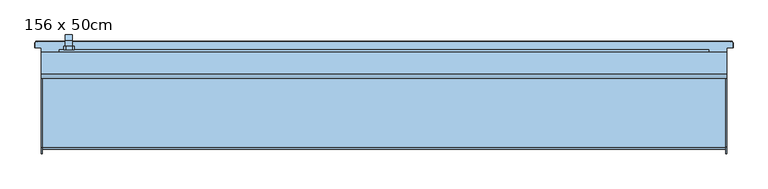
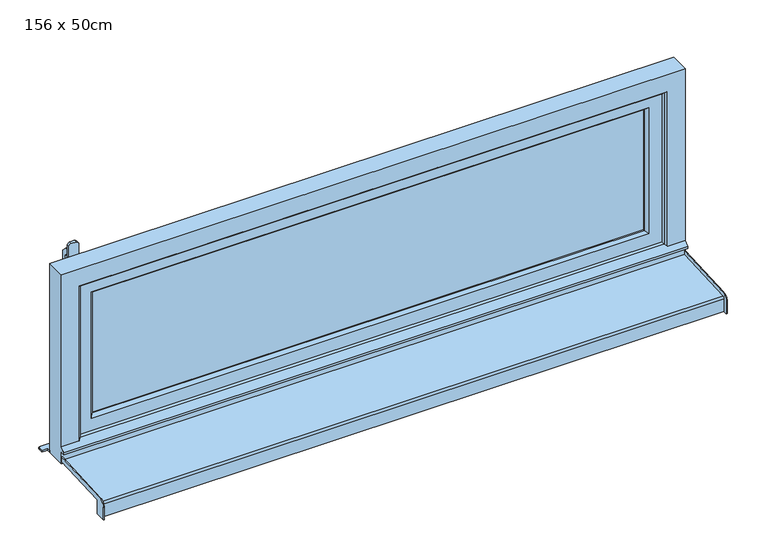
"""IFC4 building model written with IfcOpenShell, lengths in millimetres: window geometry, Fenêtre type 1 : 156 x 50cm."""

from ifc_helpers import new_model, si_unit, frame, origin, place, context, project, spatial, polyline, circle_curve, outline, extrude, faceted_brep, source, transform, mapped, element, save
from ifc_brep_helpers import plane_surface, cylinder_surface, revolved_surface, advanced_brep


def window_156_x_50cm_3dce97cc(model_context):
    return source(origin(), model_context, "Body", "SolidModel", [
        faceted_brep([(-725.5, 103.0, 1306.0), (-725.5, 103.0, 1294.0), (-709.5, 103.0, 1294.0), (-709.5, 103.0, 1306.0), (-709.5, 115.4852814, 1306.0), (-725.5, 115.4852814, 1306.0), (-709.5, 110.5147186, 1294.0), (-709.5, 117.0, 1287.5147186), (-709.5, 117.0, 1287.2282668), (-709.5, 119.7580139, 1208.5355339), (-709.5, 129.0, 1208.5355339), (-709.5, 129.0, 1292.4852814), (-725.5, 110.5147186, 1294.0), (-725.5, 129.0, 1292.4852814), (-725.5, 129.0, 1208.5355339), (-725.5, 119.7580139, 1208.5355339), (-725.5, 117.0099909, 1287.2286157), (-725.5, 117.0, 1287.5147186), (-713.0355339, 129.0, 1205.0), (-713.0355339, 119.8814775, 1205.0), (-721.9644661, 119.8814775, 1205.0), (-721.9644661, 129.0, 1205.0)], [[[0, 1, 2, 3]], [[3, 4, 5, 0]], [[2, 6, 7, 8, 9, 10, 11, 4, 3]], [[1, 12, 6, 2]], [[0, 5, 13, 14, 15, 16, 17, 12, 1]], [[4, 11, 13, 5]], [[6, 12, 17, 7]], [[18, 19, 20, 21]], [[11, 10, 18, 21, 14, 13]], [[17, 16, 8, 7]], [[16, 15, 20, 19, 9, 8]], [[9, 19, 18, 10]], [[14, 21, 20, 15]]]),
        extrude(outline(polyline([(1330.0, -724.5), (1325.0, -729.5), (1275.0, -729.5), (1270.0, -724.5), (1270.0, -710.5), (1275.0, -705.5), (1325.0, -705.5), (1330.0, -710.5), (1330.0, -724.5)])), frame((0.0, 95.0, 0.0), z_axis=(0.0, 1.0, 0.0), x_axis=(0.0, 0.0, 1.0)), (0.0, 0.0, 1.0), 8.0),
        advanced_brep(
        [(-780.0, -115.0, 762.0), (-780.0, -141.5, 762.0), (-780.0, -141.5, 795.1063906), (-780.0, -127.2850393, 810.0858337), (-780.0, 40.0, 818.8528711), (-780.0, 40.0, 807.3370891), (-780.0, -115.0, 799.2138833), (780.0, -115.0, 799.2138833), (780.0, 40.0, 807.3370891), (780.0, 40.0, 818.8528711), (780.0, -127.2850393, 810.0858337), (780.0, -141.5, 795.1063906), (780.0, -141.5, 762.0), (780.0, -115.0, 762.0), (-778.0, 40.0, 818.8528711), (-778.0, 40.0, 808.8391476), (778.0, 40.0, 808.8391476), (778.0, 40.0, 818.8528711), (-778.0, -126.7616798, 800.0995383), (778.0, -126.7616798, 800.0995383), (778.0, -131.5, 795.1063906), (-778.0, -131.5, 795.1063906), (-778.0, -131.5, 762.0), (778.0, -131.5, 762.0), (-778.0, -130.0, 762.0), (778.0, -130.0, 762.0), (778.0, -115.0, 762.0), (778.0, -141.5, 762.0), (-778.0, -141.5, 762.0), (-778.0, -115.0, 762.0), (-778.0, -120.0, 772.0), (778.0, -120.0, 772.0), (-778.0, -121.0606602, 773.0606602), (778.0, -121.0606602, 773.0606602), (-778.0, -130.0, 764.1213203), (778.0, -130.0, 764.1213203), (-778.0, -130.0, 795.0728058), (778.0, -130.0, 795.0728058), (-778.0, -115.0, 799.2138833), (778.0, -115.0, 799.2138833), (778.0, -126.649637, 798.6033517), (-778.0, -126.649637, 798.6033517), (778.0, -141.5, 795.1063906), (778.0, -127.2850393, 810.0858337), (-778.0, -127.2850393, 810.0858337), (-778.0, -141.5, 795.1063906)],
        [
            (0, 1),
            (1, 2),
            (2, 3, circle_curve(frame((-780.0, -126.5, 795.1063906), z_axis=(-1.0, 0.0, 0.0), x_axis=(0.0, -0.05233595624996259, 0.998629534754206)), 15.0)),
            (3, 4),
            (4, 5),
            (5, 6),
            (6, 0),
            (7, 8),
            (8, 9),
            (9, 10),
            (10, 11, circle_curve(frame((780.0, -126.5, 795.1063906), z_axis=(1.0, 0.0, 0.0), x_axis=(0.0, -1.0, 0.0)), 15.0)),
            (11, 12),
            (12, 13),
            (13, 7),
            (14, 15),
            (15, 16),
            (16, 17),
            (17, 9),
            (8, 5),
            (4, 14),
            (18, 19),
            (19, 16),
            (15, 18),
            (20, 21),
            (21, 22),
            (22, 23),
            (23, 20),
            (24, 25),
            (25, 26),
            (26, 13),
            (12, 27),
            (27, 23),
            (22, 28),
            (28, 1),
            (0, 29),
            (29, 24),
            (30, 31),
            (31, 25),
            (24, 30),
            (32, 33),
            (33, 31),
            (30, 32),
            (34, 35),
            (35, 33),
            (32, 34),
            (36, 37),
            (37, 35),
            (34, 36),
            (38, 6),
            (7, 39),
            (39, 40),
            (40, 41),
            (41, 38),
            (41, 36, circle_curve(frame((-778.0, -126.4646089, 795.0728058), z_axis=(1.0, 0.0, 0.0), x_axis=(0.0, 1.0, 0.0)), 3.5353911)),
            (29, 38),
            (37, 40, circle_curve(frame((778.0, -126.4646089, 795.0728058), z_axis=(-1.0, 0.0, 0.0), x_axis=(0.0, 1.0, 0.0)), 3.5353911)),
            (39, 26),
            (18, 21, circle_curve(frame((-778.0, -126.5, 795.1063906), z_axis=(1.0, 0.0, 0.0), x_axis=(0.0, 1.0, 0.0)), 5.0)),
            (20, 19, circle_curve(frame((778.0, -126.5, 795.1063906), z_axis=(-1.0, 0.0, 0.0), x_axis=(0.0, 1.0, 0.0)), 5.0)),
            (27, 42),
            (42, 43, circle_curve(frame((778.0, -126.5, 795.1063906), z_axis=(-1.0, 0.0, 0.0), x_axis=(0.0, -1.0, 0.0)), 15.0)),
            (43, 17),
            (11, 42),
            (10, 43),
            (14, 44),
            (44, 45, circle_curve(frame((-778.0, -126.5, 795.1063906), z_axis=(1.0, 0.0, 0.0), x_axis=(0.0, -0.05233595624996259, 0.998629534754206)), 15.0)),
            (45, 28),
            (3, 44),
            (2, 45),
        ],
        [
            plane_surface(frame((-780.0, 40.0, 807.3370891), z_axis=(-1.0, 0.0, 0.0), x_axis=(0.0, 0.0, 1.0))),
            plane_surface(frame((780.0, 40.0, 807.3370891), z_axis=(1.0, 0.0, 0.0), x_axis=(0.0, 0.0, -1.0))),
            plane_surface(frame((-780.0, 40.0, 807.3370891), z_axis=(0.0, 1.0, 0.0), x_axis=(1.0, 0.0, 0.0))),
            plane_surface(frame((-780.0, 40.0, 808.8391476), z_axis=(0.0, -0.052335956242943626, 0.9986295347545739), x_axis=(1.0, 0.0, 0.0))),
            plane_surface(frame((-780.0, -131.5, 795.1063906), z_axis=(0.0, -1.0, 0.0), x_axis=(1.0, 0.0, 0.0))),
            plane_surface(frame((-780.0, -131.5, 762.0), z_axis=(0.0, 0.0, -1.0), x_axis=(1.0, 0.0, 0.0))),
            plane_surface(frame((-780.0, -130.0, 762.0), z_axis=(0.0, 0.7071067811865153, -0.7071067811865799), x_axis=(1.0, 0.0, 0.0))),
            plane_surface(frame((-780.0, -120.0, 772.0), z_axis=(0.0, 0.7071067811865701, 0.707106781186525), x_axis=(1.0, 0.0, 0.0))),
            plane_surface(frame((-780.0, -121.0606602, 773.0606602), z_axis=(0.0, -0.7071067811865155, 0.7071067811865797), x_axis=(1.0, 0.0, 0.0))),
            plane_surface(frame((-780.0, -130.0, 764.1213203), z_axis=(0.0, 1.0, 0.0), x_axis=(1.0, 0.0, 0.0))),
            plane_surface(frame((-780.0, -126.649637, 798.6033517), z_axis=(0.0, 0.05233595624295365, -0.9986295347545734), x_axis=(1.0, 0.0, 0.0))),
            plane_surface(frame((-778.0, -130.0, 798.4277666), z_axis=(1.0, 0.0, 0.0), x_axis=(0.0, 0.9986295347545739, 0.05233595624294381))),
            plane_surface(frame((-780.0, -115.0, 762.0), z_axis=(0.0, 1.0, 0.0), x_axis=(1.0, 0.0, 0.0))),
            plane_surface(frame((778.0, -130.0, 798.4277666), z_axis=(-1.0, 0.0, 0.0), x_axis=(0.0, 0.0, -1.0))),
            plane_surface(frame((778.0, -115.0, 762.0), z_axis=(0.0, 1.0, 0.0), x_axis=(1.0, 0.0, 0.0))),
            cylinder_surface(frame((780.0, -126.5, 795.1063906), z_axis=(-1.0, 0.0, 0.0), x_axis=(0.0, 1.0, 0.0)), 5.0),
            revolved_surface(polyline([(778.0, -122.9292178, 795.0728058), (-778.0, -122.9292178, 795.0728058)]), (780.0, -126.4646089, 795.0728058), (1.0, 0.0, 0.0)),
            plane_surface(frame((778.0, -131.5, 762.0), z_axis=(-1.0, 0.0, 0.0), x_axis=(0.0, 0.0, 1.0))),
            plane_surface(frame((778.0, -141.5, 762.0), z_axis=(0.0, -1.0, 0.0), x_axis=(0.0, 0.0, 1.0))),
            cylinder_surface(frame((780.0, -126.5, 795.1063906), z_axis=(1.0, 0.0, 0.0), x_axis=(0.0, -1.0, 0.0)), 15.0),
            plane_surface(frame((778.0, -127.2850393, 810.0858337), z_axis=(0.0, -0.05233595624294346, 0.9986295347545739), x_axis=(0.0, 0.9986295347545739, 0.05233595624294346))),
            plane_surface(frame((-778.0, 40.0, 818.8528711), z_axis=(1.0, 0.0, 0.0), x_axis=(0.0, 0.9986295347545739, 0.05233595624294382))),
            plane_surface(frame((-780.0, 40.0, 818.8528711), z_axis=(0.0, -0.05233595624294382, 0.9986295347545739), x_axis=(1.0, 0.0, 0.0))),
            cylinder_surface(frame((-780.0, -126.5, 795.1063906), z_axis=(-1.0, 0.0, 0.0), x_axis=(0.0, -0.05233595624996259, 0.998629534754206)), 15.0),
            plane_surface(frame((-778.0, -141.5, 795.1063906), z_axis=(0.0, -1.0, 0.0), x_axis=(0.0, 0.0, -1.0))),
        ],
        [
            (0, [[1, 2, 3, 4, 5, 6, 7]]),
            (1, [[8, 9, 10, 11, 12, 13, 14]]),
            (2, [[15, 16, 17, 18, -9, 19, -5, 20]]),
            (3, [[21, 22, -16, 23]]),
            (4, [[24, 25, 26, 27]]),
            (5, [[28, 29, 30, -13, 31, 32, -26, 33, 34, -1, 35, 36]]),
            (6, [[37, 38, -28, 39]]),
            (7, [[40, 41, -37, 42]]),
            (8, [[43, 44, -40, 45]]),
            (9, [[46, 47, -43, 48]]),
            (10, [[49, -6, -19, -8, 50, 51, 52, 53]]),
            (11, [[-53, 54, -48, -45, -42, -39, -36, 55]]),
            (12, [[-35, -7, -49, -55]]),
            (13, [[-38, -41, -44, -47, 56, -51, 57, -29]]),
            (14, [[-50, -14, -30, -57]]),
            (15, [[-21, 58, -24, 59]]),
            (16, [[-52, -56, -46, -54]]),
            (17, [[60, 61, 62, -17, -22, -59, -27, -32]]),
            (18, [[-12, 63, -60, -31]]),
            (19, [[64, -61, -63, -11]]),
            (20, [[-10, -18, -62, -64]]),
            (21, [[65, 66, 67, -33, -25, -58, -23, -15]]),
            (22, [[68, -65, -20, -4]]),
            (23, [[69, -66, -68, -3]]),
            (24, [[-34, -67, -69, -2]]),
        ],
    ),
        extrude(outline(polyline([(-690.0, 85.0), (690.0, 85.0), (690.0, 65.0), (-690.0, 65.0), (-690.0, 85.0)])), frame((0.0, 0.0, 890.0), z_axis=(0.0, 0.0, 1.0), x_axis=(1.0, 0.0, 0.0)), (0.0, 0.0, 1.0), 320.0),
        faceted_brep([(-740.0, 95.0, 840.0), (740.0, 95.0, 840.0), (740.0, 55.0, 840.0), (-740.0, 55.0, 840.0), (740.0, 95.0, 1260.0), (740.0, 55.0, 1260.0), (-740.0, 55.0, 1260.0), (697.0710678, 55.0, 1217.0710678), (697.0710678, 55.0, 882.9289322), (-697.0710678, 55.0, 882.9289322), (-697.0710678, 55.0, 1217.0710678), (-740.0, 95.0, 1260.0), (697.0710678, 95.0, 882.9289322), (697.0710678, 95.0, 1217.0710678), (-697.0710678, 95.0, 1217.0710678), (-697.0710678, 95.0, 882.9289322), (-690.0, 87.9289322, 890.0), (690.0, 87.9289322, 890.0), (690.0, 87.9289322, 1210.0), (690.0, 62.0710678, 890.0), (690.0, 62.0710678, 1210.0), (-690.0, 62.0710678, 890.0), (-690.0, 87.9289322, 1210.0), (-690.0, 62.0710678, 1210.0)], [[[0, 1, 2, 3]], [[1, 4, 5, 2]], [[2, 5, 6, 3], [7, 8, 9, 10]], [[4, 1, 0, 11], [12, 13, 14, 15]], [[16, 17, 12, 15]], [[17, 18, 13, 12]], [[19, 20, 18, 17]], [[9, 8, 19, 21]], [[8, 7, 20, 19]], [[11, 0, 3, 6]], [[22, 16, 15, 14]], [[23, 21, 16, 22]], [[10, 9, 21, 23]], [[21, 19, 17, 16]], [[4, 11, 6, 5]], [[18, 22, 14, 13]], [[7, 10, 23, 20]], [[20, 23, 22, 18]]]),
        faceted_brep([(780.0, 40.0, 800.0), (780.0, 90.0, 800.0), (780.0, 90.0, 1300.0), (780.0, 40.0, 1300.0), (780.0, 40.0, 845.0), (780.0, 30.0, 835.0), (780.0, 30.0, 830.0), (780.0, 40.0, 830.0), (-780.0, 40.0, 830.0), (-780.0, 40.0, 800.0), (-780.0, 30.0, 830.0), (-780.0, 30.0, 835.0), (735.0, 40.0, 845.0), (730.0, 45.0, 850.0), (-730.0, 45.0, 850.0), (-735.0, 40.0, 845.0), (-780.0, 40.0, 845.0), (-780.0, 40.0, 1300.0), (-735.0, 40.0, 1255.0), (735.0, 40.0, 1255.0), (-780.0, 90.0, 800.0), (-780.0, 90.0, 1300.0), (740.0, 90.0, 840.0), (740.0, 90.0, 1260.0), (-740.0, 90.0, 1260.0), (-740.0, 90.0, 840.0), (-740.0, 55.0, 840.0), (740.0, 55.0, 840.0), (-740.0, 55.0, 1260.0), (740.0, 55.0, 1260.0), (730.0, 55.0, 850.0), (730.0, 55.0, 1250.0), (-730.0, 55.0, 1250.0), (-730.0, 55.0, 850.0), (-730.0, 45.0, 1250.0), (730.0, 45.0, 1250.0)], [[[0, 1, 2, 3, 4, 5, 6, 7]], [[7, 8, 9, 0]], [[6, 10, 8, 7]], [[5, 11, 10, 6]], [[5, 4, 12, 13, 14, 15, 16, 11]], [[17, 16, 15, 18, 19, 12, 4, 3]], [[1, 20, 21, 2], [22, 23, 24, 25]], [[0, 9, 20, 1]], [[9, 8, 10, 11, 16, 17, 21, 20]], [[25, 26, 27, 22]], [[26, 25, 24, 28]], [[22, 27, 29, 23]], [[29, 27, 26, 28], [30, 31, 32, 33]], [[33, 14, 13, 30]], [[34, 14, 33, 32]], [[31, 30, 13, 35]], [[35, 13, 12, 19]], [[18, 15, 14, 34]], [[28, 24, 23, 29]], [[3, 2, 21, 17]], [[31, 35, 34, 32]], [[18, 34, 35, 19]]]),
        advanced_brep(
        [(780.0, 100.0, 805.0), (793.9971508, 100.0, 805.0), (793.9971508, 110.0, 805.0), (790.0, 113.9971508, 805.0), (-790.0, 113.9971508, 805.0), (-793.9971508, 110.0, 805.0), (-793.9971508, 100.0, 805.0), (-780.0, 100.0, 805.0), (-780.0, 90.0, 805.0), (780.0, 90.0, 805.0), (-780.0, 100.0, 800.0), (-793.9971508, 100.0, 800.0), (-793.9971508, 110.0, 800.0), (-790.0, 113.9971508, 800.0), (790.0, 113.9971508, 800.0), (793.9971508, 110.0, 800.0), (793.9971508, 100.0, 800.0), (780.0, 100.0, 800.0), (780.0, 90.0, 800.0), (-780.0, 90.0, 800.0), (-795.0, 110.0, 801.0028492), (-795.0, 100.0, 801.0028492), (-795.0, 100.0, 803.9971508), (-795.0, 110.0, 803.9971508), (795.0, 100.0, 801.0028492), (795.0, 100.0, 803.9971508), (795.0, 110.0, 801.0028492), (795.0, 110.0, 803.9971508), (790.0, 115.0, 801.0028492), (-790.0, 115.0, 801.0028492), (-790.0, 115.0, 803.9971508), (790.0, 115.0, 803.9971508)],
        [
            (0, 1),
            (1, 2),
            (2, 3, circle_curve(frame((790.0, 110.0, 805.0), z_axis=(0.0, 0.0, 1.0), x_axis=(0.0, 1.0, 0.0)), 3.9971508)),
            (3, 4),
            (4, 5, circle_curve(frame((-790.0, 110.0, 805.0), z_axis=(0.0, 0.0, 1.0), x_axis=(-1.0, 0.0, 0.0)), 3.9971508)),
            (5, 6),
            (6, 7),
            (7, 8),
            (8, 9),
            (9, 0),
            (10, 11),
            (11, 12),
            (12, 13, circle_curve(frame((-790.0, 110.0, 800.0), z_axis=(0.0, 0.0, -1.0), x_axis=(-1.0, 0.0, 0.0)), 3.9971508)),
            (13, 14),
            (14, 15, circle_curve(frame((790.0, 110.0, 800.0), z_axis=(0.0, 0.0, -1.0), x_axis=(0.0, 1.0, 0.0)), 3.9971508)),
            (15, 16),
            (16, 17),
            (17, 18),
            (18, 19),
            (19, 10),
            (20, 21),
            (21, 22),
            (22, 23),
            (23, 20),
            (6, 22),
            (21, 11),
            (10, 7),
            (19, 8),
            (18, 9),
            (17, 0),
            (16, 24),
            (24, 25),
            (25, 1),
            (24, 26),
            (26, 27),
            (27, 25),
            (28, 29),
            (29, 30),
            (30, 31),
            (31, 28),
            (31, 27, circle_curve(frame((790.0, 110.0, 803.9971508), z_axis=(0.0, 0.0, -1.0), x_axis=(0.0, 1.0, 0.0)), 5.0)),
            (26, 28, circle_curve(frame((790.0, 110.0, 801.0028492), z_axis=(0.0, 0.0, 1.0), x_axis=(0.0, 1.0, 0.0)), 5.0)),
            (23, 30, circle_curve(frame((-790.0, 110.0, 803.9971508), z_axis=(0.0, 0.0, -1.0), x_axis=(0.0, 1.0, 0.0)), 5.0)),
            (29, 20, circle_curve(frame((-790.0, 110.0, 801.0028492), z_axis=(0.0, 0.0, 1.0), x_axis=(0.0, 1.0, 0.0)), 5.0)),
            (5, 23),
            (20, 12),
            (4, 30),
            (29, 13),
            (3, 31),
            (28, 14),
            (2, 27),
            (26, 15),
        ],
        [
            plane_surface(frame((-795.0, 100.0, 805.0), z_axis=(0.0, 0.0, 1.0), x_axis=(0.0, 1.0, 0.0))),
            plane_surface(frame((-795.0, 100.0, 800.0), z_axis=(0.0, 0.0, -1.0), x_axis=(0.0, -1.0, 0.0))),
            plane_surface(frame((-795.0, 110.0, 800.0), z_axis=(-1.0, 0.0, 0.0), x_axis=(0.0, 0.0, 1.0))),
            plane_surface(frame((-795.0, 100.0, 800.0), z_axis=(0.0, -1.0, 0.0), x_axis=(0.0, 0.0, 1.0))),
            plane_surface(frame((-780.0, 100.0, 800.0), z_axis=(-1.0, 0.0, 0.0), x_axis=(0.0, 0.0, 1.0))),
            plane_surface(frame((-780.0, 90.0, 800.0), z_axis=(0.0, -1.0, 0.0), x_axis=(0.0, 0.0, 1.0))),
            plane_surface(frame((780.0, 90.0, 800.0), z_axis=(1.0, 0.0, 0.0), x_axis=(0.0, 0.0, 1.0))),
            plane_surface(frame((780.0, 100.0, 800.0), z_axis=(0.0, -1.0, 0.0), x_axis=(0.0, 0.0, 1.0))),
            plane_surface(frame((795.0, 100.0, 800.0), z_axis=(1.0, 0.0, 0.0), x_axis=(0.0, 0.0, 1.0))),
            plane_surface(frame((790.0, 115.0, 800.0), z_axis=(0.0, 1.0, 0.0), x_axis=(0.0, 0.0, 1.0))),
            cylinder_surface(frame((790.0, 110.0, 805.0), z_axis=(0.0, 0.0, -1.0), x_axis=(0.0, 1.0, 0.0)), 5.0),
            cylinder_surface(frame((-790.0, 110.0, 805.0), z_axis=(0.0, 0.0, -1.0), x_axis=(0.0, 1.0, 0.0)), 5.0),
            plane_surface(frame((-793.9971508, 100.0, 805.0), z_axis=(-0.7071067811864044, 0.0, 0.7071067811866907), x_axis=(0.0, 1.0, 0.0))),
            plane_surface(frame((-795.0, 100.0, 801.0028492), z_axis=(-0.7071067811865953, 0.0, -0.7071067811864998), x_axis=(0.0, 1.0, 0.0))),
            revolved_surface(polyline([(-795.0, 110.0, 803.9971508), (-793.9971508, 110.0, 805.0)]), (-790.0, 110.0, 805.0), (0.0, 0.0, 1.0)),
            revolved_surface(polyline([(-793.9971508, 110.0, 800.0), (-795.0, 110.0, 801.0028492)]), (-790.0, 110.0, 805.0), (0.0, 0.0, 1.0)),
            plane_surface(frame((-790.0, 113.9971508, 805.0), z_axis=(0.0, 0.7071067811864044, 0.7071067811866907), x_axis=(1.0, 0.0, 0.0))),
            plane_surface(frame((-790.0, 115.0, 801.0028492), z_axis=(0.0, 0.7071067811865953, -0.7071067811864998), x_axis=(1.0, 0.0, 0.0))),
            revolved_surface(polyline([(790.0, 115.0, 803.9971508), (790.0, 113.9971508, 805.0)]), (790.0, 110.0, 805.0), (0.0, 0.0, 1.0)),
            revolved_surface(polyline([(790.0, 113.9971508, 800.0), (790.0, 115.0, 801.0028492)]), (790.0, 110.0, 805.0), (0.0, 0.0, 1.0)),
            plane_surface(frame((793.9971508, 110.0, 805.0), z_axis=(0.7071067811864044, 0.0, 0.7071067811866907), x_axis=(0.0, -1.0, 0.0))),
            plane_surface(frame((795.0, 110.0, 801.0028492), z_axis=(0.7071067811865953, 0.0, -0.7071067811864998), x_axis=(0.0, -1.0, 0.0))),
        ],
        [
            (0, [[1, 2, 3, 4, 5, 6, 7, 8, 9, 10]]),
            (1, [[11, 12, 13, 14, 15, 16, 17, 18, 19, 20]]),
            (2, [[21, 22, 23, 24]]),
            (3, [[-7, 25, -22, 26, -11, 27]]),
            (4, [[-27, -20, 28, -8]]),
            (5, [[-28, -19, 29, -9]]),
            (6, [[-29, -18, 30, -10]]),
            (7, [[-17, 31, 32, 33, -1, -30]]),
            (8, [[34, 35, 36, -32]]),
            (9, [[37, 38, 39, 40]]),
            (10, [[41, -35, 42, -40]]),
            (11, [[43, -38, 44, -24]]),
            (12, [[-23, -25, -6, 45]]),
            (13, [[-12, -26, -21, 46]]),
            (14, [[-5, 47, -43, -45]]),
            (15, [[-44, 48, -13, -46]]),
            (16, [[-4, 49, -39, -47]]),
            (17, [[-37, 50, -14, -48]]),
            (18, [[-3, 51, -41, -49]]),
            (19, [[-42, 52, -15, -50]]),
            (20, [[-2, -33, -36, -51]]),
            (21, [[-34, -31, -16, -52]]),
        ],
    ),
    ])


if __name__ == "__main__":
    model = new_model("IFC4")
    model_context = context("Model", 3, world=origin())
    ifc_project = project(units=[si_unit("LENGTHUNIT", "METRE", prefix="MILLI")], contexts=[model_context])
    site = spatial("IfcSite", under=ifc_project)
    building = spatial("IfcBuilding", under=site)
    placement = place(None, origin())
    window_156_x_50cm_shape = window_156_x_50cm_3dce97cc(model_context)
    element("IfcWindow", 1, ObjectType="Fenêtre type 1 : 156 x 50cm", at=placement, inside=building, context=model_context, shape_type="MappedRepresentation", body=[
        mapped(window_156_x_50cm_shape, transform((0.0, 0.0, 0.0), x_axis=(1.0, 0.0, 0.0), y_axis=(0.0, 1.0, 0.0), z_axis=(0.0, 0.0, 1.0))),
    ])
    save(model, "model.ifc")
